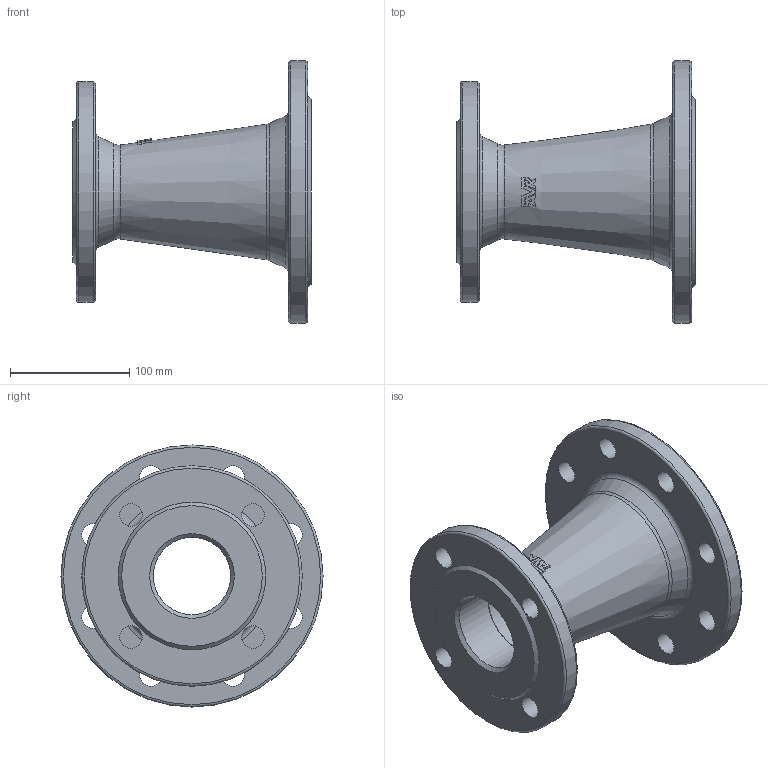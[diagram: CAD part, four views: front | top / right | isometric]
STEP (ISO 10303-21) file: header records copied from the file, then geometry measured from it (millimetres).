
FILE_DESCRIPTION (( 'STEP AP203' ), '1' );
FILE_NAME ('O_712_2210_DN100_DN65_1X_REV01.step', '2024-08-07T10:56:10', ( '' ), ( '' ), 'SwSTEP 2.0', 'SolidWorks 2022', '' );
FILE_SCHEMA (( 'CONFIG_CONTROL_DESIGN' ));
Length unit declared in the file: millimetre
Products named in the file (1): O_712_2210_DN100_DN65_1X_REV01
Bounding box: 200 x 220 x 220 mm (x, y, z)
Volume: 1218605.4 mm3; surface area: 224461.4 mm2
Topology: 1 solids, 1 shells, 89 faces, 237 edges, 150 vertices
Faces by surface type: plane 49, cylinder 18, cone 12, torus 10
Full cylindrical faces by diameter (mm): 19 x12, 65 x1, 100 x1, 185 x1, 220 x1
Entity records: 2646 total; most frequent: CARTESIAN_POINT 577, DIRECTION 431, ORIENTED_EDGE 372, AXIS2_PLACEMENT_3D 197, EDGE_CURVE 186, EDGE_LOOP 149, VERTEX_POINT 133, FACE_OUTER_BOUND 115
